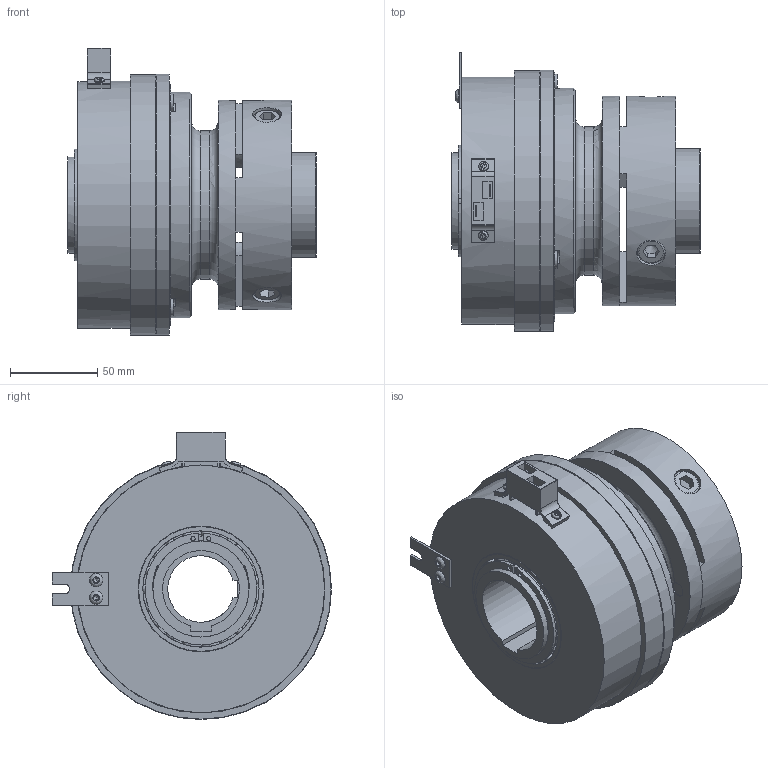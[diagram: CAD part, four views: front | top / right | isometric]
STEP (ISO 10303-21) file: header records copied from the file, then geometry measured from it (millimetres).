
FILE_DESCRIPTION(/* description */ (''),/* implementation_level */ '2;1');
FILE_NAME(/* name */ 'X:\INVENTOR\DISEGNI\08_Freni_Friz_Elettmag_Monodisco\08_26 EMSL_DF\EMSL_DF STEP\Tipo GE\08_26_150_51 EMSL150_DF-GE_Con@STEP.stp',/* time_stamp */ '2019-02-06T08:45:28+01:00',/* author */ ('stefano'),/* organization */ (''),/* preprocessor_version */ 'ST-DEVELOPER v17',/* originating_system */ 'Autodesk Inventor 2018',/* authorisation */ '');
FILE_SCHEMA (('AUTOMOTIVE_DESIGN { 1 0 10303 214 3 1 1 }'));
Length unit declared in the file: millimetre
Products named in the file (1): 08_26_150_51 EMSL150_DF-GE - Spina_Substitute_1
Bounding box: 142 x 159.75 x 164.35 mm (x, y, z)
Volume: 1095138.6 mm3; surface area: 277689.3 mm2
Topology: 2 solids, 2 shells, 801 faces, 2531 edges, 1673 vertices
Faces by surface type: cylinder 302, plane 280, torus 126, sphere 58, cone 33, bspline 2
Full cylindrical faces by diameter (mm): 2.2 x3, 2.5 x4, 3 x2, 5.6 x2, 6 x1, 6.1 x6, 6.647 x3, 7.5 x3, 7.6 x2, 8 x3, 8.1 x3, 8.376 x6, 10 x6, 11 x3, 13 x3, 16 x6, 16.5 x6, 52 x2, 55 x6, 60 x2, 60.44 x4, 62 x2, 66.56 x4, 71.5 x1, 72 x6, 75 x2, 85 x1, 95 x1, 96 x2, 120 x2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
Entity records: 33061 total; most frequent: CARTESIAN_POINT 9750, DIRECTION 4866, ORIENTED_EDGE 4846, EDGE_CURVE 2423, AXIS2_PLACEMENT_3D 2075, VERTEX_POINT 1673, CIRCLE 1275, EDGE_LOOP 1030
